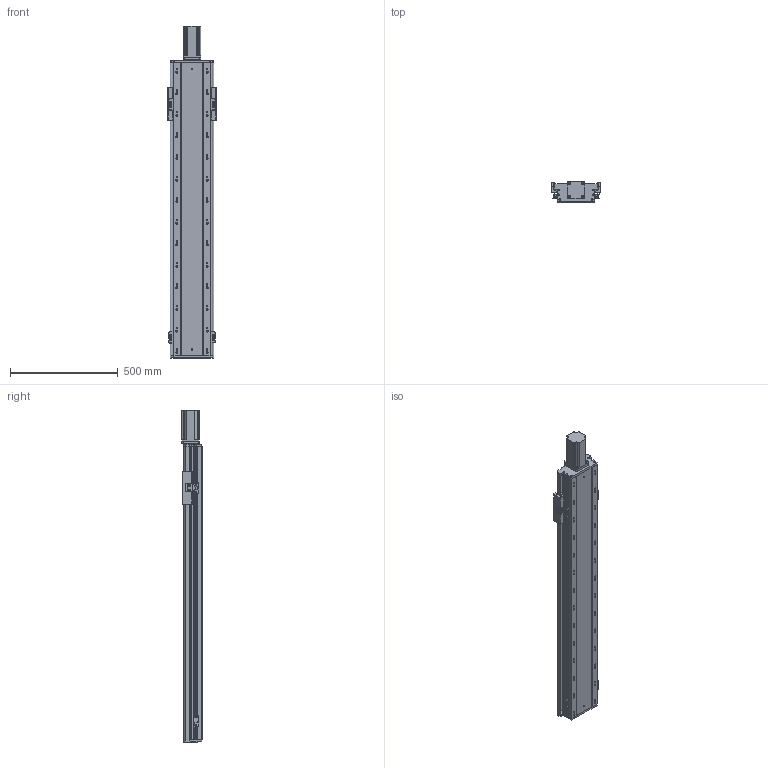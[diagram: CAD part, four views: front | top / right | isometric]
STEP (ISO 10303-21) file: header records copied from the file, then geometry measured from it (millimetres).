
FILE_DESCRIPTION (( 'STEP AP203' ), '1' );
FILE_NAME ('RY170FB-L2510-300-MK.SLDASM_1050.step', '2021-02-22T08:56:59', ( '盈信电脑' ), ( '东莞市道滘镇水果街19号' ), 'SwSTEP 2.0', 'SolidWorks 2012', '' );
FILE_SCHEMA (( 'CONFIG_CONTROL_DESIGN' ));
Length unit declared in the file: millimetre
Products named in the file (16): RY140FB-674嫖萇覜茼え; RY170FB-L2510-300-MK.SLDASM_1050; RY140FB-覜茼え; RY140-674嫖萇耀輸; RY140直线电机感应器674光电安装座; 覜茼ん674; 侂狟750W萇儂ㄗ80遺ㄘ; 750W萇儂梓袧蛌諉啣; RY170FB-铝滑块(25丝杆）; RY170FB-300奻裔_1050; 滅袉蝶18-28; 滅袉蝶18-10; RY170FB-ヶ裔啣; RY170FB-綴裔啣; RY170FB-300倰第菁釱-MK_1050
Assembly tree (20 placements, depth 3):
  RY170FB-L2510-300-MK.SLDASM_1050
    RY170FB-300倰第菁釱-MK_1050
    RY170FB-綴裔啣
    RY170FB-ヶ裔啣
    滅袉蝶18-28
    滅袉蝶18-10
    RY170FB-铝滑块(25丝杆）
    RY170FB-300奻裔_1050
    750W萇儂梓袧蛌諉啣
    侂狟750W萇儂ㄗ80遺ㄘ
    RY140-674嫖萇耀輸  x2
      覜茼ん674
      RY140直线电机感应器674光电安装座
    RY140FB-674嫖萇覜茼え
    RY140-674嫖萇耀輸  x2
      覜茼ん674
      RY140直线电机感应器674光电安装座
    RY140FB-覜茼え
Bounding box: 225 x 93.2 x 1539.5 mm (x, y, z)
Volume: 8083566.5 mm3; surface area: 2328508.9 mm2
Topology: 21 solids, 21 shells, 1759 faces, 5185 edges, 3326 vertices
Faces by surface type: cylinder 862, plane 761, cone 136
Entity records: 48125 total; most frequent: CARTESIAN_POINT 11228, ORIENTED_EDGE 7550, DIRECTION 7237, EDGE_CURVE 3775, AXIS2_PLACEMENT_3D 2651, VERTEX_POINT 2480, LINE 1935, VECTOR 1935
